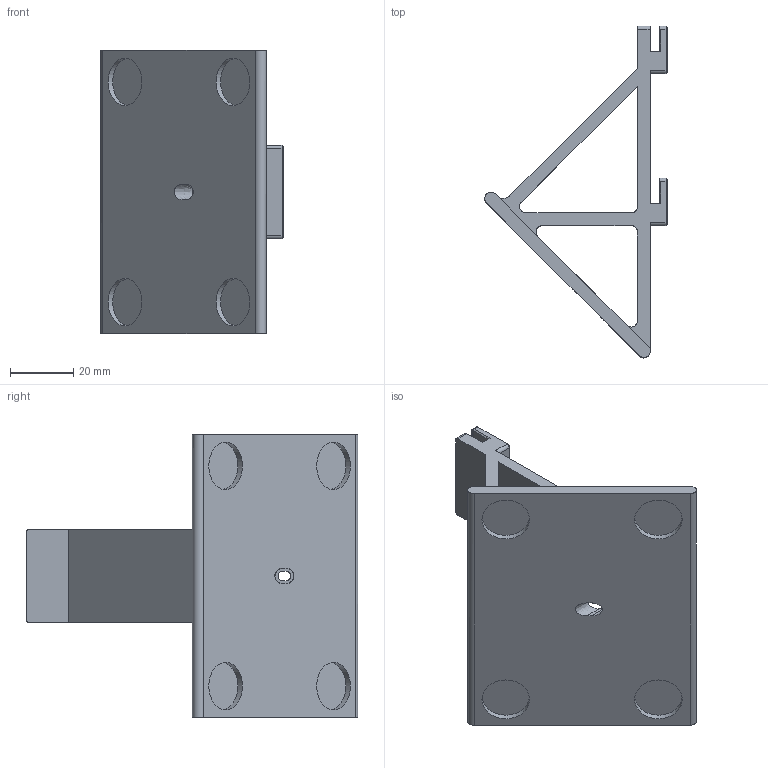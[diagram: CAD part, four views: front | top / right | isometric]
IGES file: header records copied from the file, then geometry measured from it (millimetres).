
Global section: file name: 5_in_waveshare_lcd_a_case_stand_45_degrees v18; native system: unknown; preprocessor: unknown; author: unknown; organization: unknown; date: 20190608.115908; units: millimetre
Bounding box: 57.6 x 104.67 x 89.5 mm (x, y, z)
Volume: 50769.9 mm3; surface area: 28047.9 mm2
Topology: 1 solids, 1 shells, 91 faces, 242 edges, 156 vertices
Faces by surface type: bspline 91
